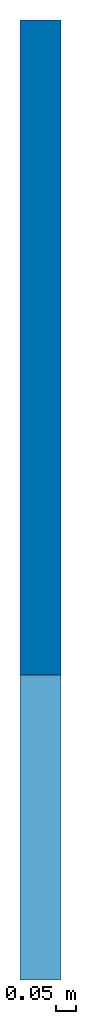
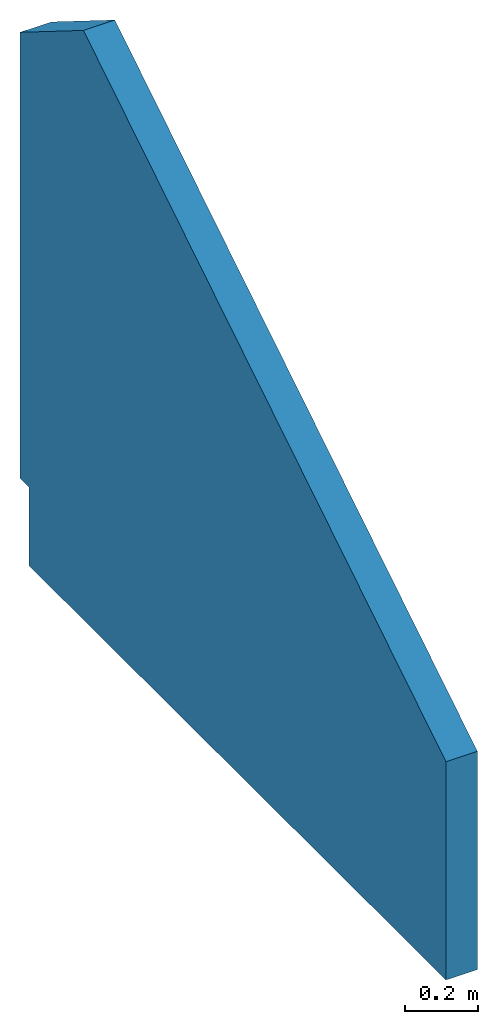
# One storey: 1 wall, 1 opening.
"""IFC2X3 building model written with IfcOpenShell, lengths in millimetres."""

from ifc_helpers import new_model, entity, si_unit, converted_unit, direction, frame, frame_2d, origin, place, context, subcontext, project, spatial, polyline, rectangle, extrude, clip, bounded_halfspace, material, layer, layer_set, layer_usage, type_object, element, save


model = new_model("IFC2X3")

# Units and contexts
model_context = context("Model", 3, precision=0.01, world=origin(), true_north=direction((0.0, 1.0)))
body_context = subcontext(model_context, "Body", "Model", "MODEL_VIEW")
ifc_project = project(units=[si_unit("LENGTHUNIT", "METRE", prefix="MILLI"), si_unit("AREAUNIT", "SQUARE_METRE"), si_unit("VOLUMEUNIT", "CUBIC_METRE"), converted_unit("PLANEANGLEUNIT", "DEGREE", entity("IfcPlaneAngleMeasure", 0.017453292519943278), si_unit("PLANEANGLEUNIT", "RADIAN"), dimensions=[0, 0, 0, 0, 0, 0, 0])], contexts=[model_context])

# Site, building, storey
site_placement = place(None, origin())
site = spatial("IfcSite", under=ifc_project, at=site_placement, Name="Default", CompositionType="ELEMENT")
building_placement = place(site_placement, origin())
building = spatial("IfcBuilding", under=site, at=building_placement, CompositionType="ELEMENT")
storey_placement = place(building_placement, frame((0.0, 0.0, 2700.0)))
storey = spatial("IfcBuildingStorey", under=building, at=storey_placement, Name="Hems plan", CompositionType="ELEMENT", Elevation=2699.9999999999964)

# Wall, opening
ifc_material = material(Name="Vegg - Stender - Isolert")
ifc_layer = layer(ifc_material, 100.0)
ifc_layer_set = layer_set([ifc_layer], Name="Basic Wall:Innervegg isolert")
ifc_layer_usage = layer_usage(ifc_layer_set, "AXIS2", "POSITIVE", -50.0)
wall_type = type_object("IfcWallType", Name="Basic Wall:Innervegg isolert", PredefinedType="STANDARD", material=ifc_layer_set)
wall_placement = place(storey_placement, frame((16650.567419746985, 14203.190261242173, -600.0), z_axis=(0.0, 0.0, 1.0), x_axis=(0.0, -1.0, 0.0)))
wall = element("IfcWallStandardCase", 1, at=wall_placement, inside=storey, type_object=wall_type, material=ifc_layer_usage, Name="Basic Wall:Innervegg isolert", context=body_context, shape_type="Clipping", body=[
    clip(clip(extrude(rectangle(XDim=2350.000000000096, YDim=99.99999999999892, at=frame_2d((1175.000000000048, 0.0), x_axis=(-1.0, 0.0))), origin(), (0.0, 0.0, 1.0), 1984.7073482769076), bounded_halfspace(frame((0.0, -50.0, 1766.0030751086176), z_axis=(-0.5299192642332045, 0.0, 0.8480480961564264), x_axis=(0.0, -1.0, 0.0)), False, frame((0.0, -50.0, 1766.0030751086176)), polyline([(0.0, 0.0), (350.0, 0.0), (350.0, 100.0), (0.0, 100.0), (0.0, 0.0)]))), bounded_halfspace(frame((350.0, -50.0, 1984.7073482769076), z_axis=(0.5299192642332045, 0.0, 0.8480480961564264), x_axis=(0.0, 1.0, 0.0)), False, frame((350.0, -50.0, 1984.7073482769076)), polyline([(0.0, 0.0), (2000.0, 0.0), (2000.0, 100.0), (0.0, 100.0), (0.0, 0.0)]))),
])
opening_placement = place(wall_placement, origin())
element("IfcOpeningElement", 2, at=opening_placement, cuts=wall, Name="Basic Wall:Innervegg isolert", ObjectType="Opening", context=body_context, shape_type="SweptSolid", body=[
    extrude(rectangle(XDim=263.99999999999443, YDim=49.99999999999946, at=frame_2d((0.0, -1.0835776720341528e-12), x_axis=(1.0, 0.0))), frame((25.0, 50.0, 132.0), z_axis=(0.0, -1.0, 0.0), x_axis=(0.0, 0.0, 1.0)), (0.0, 0.0, 1.0), 100.0),
])

save(model, "model.ifc")
